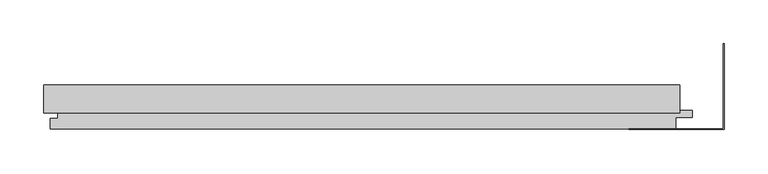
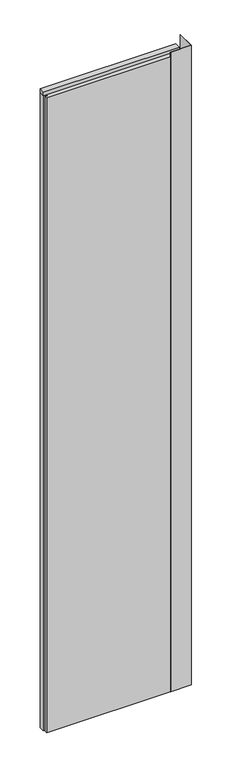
"""IFC4 building model written with IfcOpenShell, lengths in millimetres: plate geometry, Trimo_Qbiss Screen_Normal Panel-VERTICAL : HR - FB-F."""

import ifcopenshell
import ifcopenshell.guid

model = None  # the IFC model being written
_history = None  # IfcOwnerHistory: only IFC2X3 demands one
_inside = {}  # id of a spatial element -> (the spatial element, [elements in it])
_under = {}  # id of a project, library or spatial element -> (it, [spatial elements below it])
_declared = {}  # id of a project -> (the project, [libraries it declares])
_typed = {}  # id of a type object -> (the type object, [elements of that type])
_made_of = {}  # id of a material, layer set ... -> (it, [elements and type objects made of it])


def new_model(schema):
    """Start an empty IFC model of exactly this schema.

    Asked for "IFC4X3", IfcOpenShell would pick the latest addendum, in which some entities
    have other attributes; the version numbers below select the first issue.
    IFC2X3 requires an IfcOwnerHistory on every rooted entity: one is made here for all.
    """
    global model, _history
    if schema == "IFC4X3":
        model = ifcopenshell.file(schema_version=(4, 3, 0, 0))
    else:
        model = ifcopenshell.file(schema=schema)
    _inside.clear()
    _under.clear()
    _declared.clear()
    _typed.clear()
    _made_of.clear()
    _history = None
    if model.schema == "IFC2X3":
        org = make("IfcOrganization", Name="unknown")
        user = make(
            "IfcPersonAndOrganization",
            ThePerson=make("IfcPerson", FamilyName="unknown"),
            TheOrganization=org,
        )
        app = make(
            "IfcApplication",
            ApplicationDeveloper=org,
            Version="unknown",
            ApplicationFullName="unknown",
            ApplicationIdentifier="unknown",
        )
        _history = make(
            "IfcOwnerHistory",
            OwningUser=user,
            OwningApplication=app,
            ChangeAction="ADDED",
            CreationDate=0,
        )
    return model


def make(cls, **values):
    """One entity of the class cls with the attributes given. An attribute that is None is left unset."""
    return model.create_entity(
        cls, **{name: value for name, value in values.items() if value is not None}
    )


def rooted(cls, **values):
    """An entity with a GlobalId (a new one), such as an element, a storey or a relation."""
    return make(cls, GlobalId=ifcopenshell.guid.new(), OwnerHistory=_history, **values)


def si_unit(unit_type, name, prefix=None):
    """IfcSIUnit, for example si_unit("LENGTHUNIT", "METRE", prefix="MILLI")."""
    return make("IfcSIUnit", UnitType=unit_type, Prefix=prefix, Name=name)


def assignment(units):
    """IfcUnitAssignment: the units of a project."""
    return None if units is None else make("IfcUnitAssignment", Units=units)


def point(xyz):
    """IfcCartesianPoint."""
    return None if xyz is None else make("IfcCartesianPoint", Coordinates=xyz)


def direction(xyz):
    """IfcDirection."""
    return None if xyz is None else make("IfcDirection", DirectionRatios=xyz)


def frame(location, z_axis=None, x_axis=None):
    """IfcAxis2Placement3D, a coordinate frame: its origin and axes. An axis left out is left unset."""
    return make(
        "IfcAxis2Placement3D",
        Location=point(location),
        Axis=direction(z_axis),
        RefDirection=direction(x_axis),
    )


def origin():
    """The frame at (0, 0, 0) with its axes left unset."""
    return frame((0.0, 0.0, 0.0))


def place(relative_to, where):
    """IfcLocalPlacement: puts the frame where relative to a parent placement (None: the world)."""
    return make(
        "IfcLocalPlacement", PlacementRelTo=relative_to, RelativePlacement=where
    )


def context(
    kind, dimensions, precision=None, world=None, true_north=None, identifier=None
):
    """IfcGeometricRepresentationContext, for example the 3D "Model" context."""
    return make(
        "IfcGeometricRepresentationContext",
        ContextIdentifier=identifier,
        ContextType=kind,
        CoordinateSpaceDimension=dimensions,
        Precision=precision,
        WorldCoordinateSystem=world,
        TrueNorth=true_north,
    )


def project(units=None, contexts=None):
    """IfcProject with its units and contexts."""
    return rooted(
        "IfcProject",
        Name="project",
        RepresentationContexts=contexts,
        UnitsInContext=assignment(units),
    )


def spatial(cls, under=None, at=None, **own):
    """A site, building, storey or space (cls), placed at a placement, below another one or the project."""
    s = rooted(cls, ObjectPlacement=at, **own)
    if under is not None:
        _under.setdefault(under.id(), (under, []))[1].append(s)
    return s


def polyline(points):
    """IfcPolyline through the points."""
    return make("IfcPolyline", Points=[point(p) for p in points])


def outline(outer, holes=None, kind="AREA"):
    """IfcArbitraryClosedProfileDef: a profile drawn as a closed curve; with holes, ...WithVoids."""
    if holes is None:
        return make("IfcArbitraryClosedProfileDef", ProfileType=kind, OuterCurve=outer)
    return make(
        "IfcArbitraryProfileDefWithVoids",
        ProfileType=kind,
        OuterCurve=outer,
        InnerCurves=holes,
    )


def extrude(swept, where, along, depth):
    """IfcExtrudedAreaSolid: the profile swept, set in the frame where, extruded along a direction by depth."""
    return make(
        "IfcExtrudedAreaSolid",
        SweptArea=swept,
        Position=where,
        ExtrudedDirection=direction(along),
        Depth=depth,
    )


def shape(context_of_items, identifier, shape_type, items):
    """IfcShapeRepresentation: the items that make up one representation, for example the "Body"."""
    return make(
        "IfcShapeRepresentation",
        ContextOfItems=context_of_items,
        RepresentationIdentifier=identifier,
        RepresentationType=shape_type,
        Items=items,
    )


def source(mapping_origin, context_of_items, identifier, shape_type, items):
    """IfcRepresentationMap: a shape defined once, which mapped items show again and again."""
    return make(
        "IfcRepresentationMap",
        MappingOrigin=mapping_origin,
        MappedRepresentation=shape(context_of_items, identifier, shape_type, items),
    )


def transform(
    local_origin,
    x_axis=None,
    y_axis=None,
    z_axis=None,
    scale=None,
    scale2=None,
    scale3=None,
    uniform=True,
):
    """IfcCartesianTransformationOperator3D, or its non-uniform kind. x_axis, y_axis, z_axis: its Axis1, 2, 3."""
    if uniform:
        return make(
            "IfcCartesianTransformationOperator3D",
            Axis1=direction(x_axis),
            Axis2=direction(y_axis),
            LocalOrigin=point(local_origin),
            Scale=scale,
            Axis3=direction(z_axis),
        )
    return make(
        "IfcCartesianTransformationOperator3DnonUniform",
        Axis1=direction(x_axis),
        Axis2=direction(y_axis),
        LocalOrigin=point(local_origin),
        Scale=scale,
        Axis3=direction(z_axis),
        Scale2=scale2,
        Scale3=scale3,
    )


def mapped(mapping_source, mapping_target):
    """IfcMappedItem: shows the shape of a source again, moved by a transform."""
    return make(
        "IfcMappedItem", MappingSource=mapping_source, MappingTarget=mapping_target
    )


def made_of(thing, what):
    """Note that an element or type object is made of a material, layer set ...; save() writes the relation."""
    if what is not None:
        _made_of.setdefault(what.id(), (what, []))[1].append(thing)
    return thing


def element(
    cls,
    number,
    at=None,
    inside=None,
    cuts=None,
    type_object=None,
    material=None,
    context=None,
    identifier="Body",
    shape_type=None,
    held_by="IfcProductDefinitionShape",
    body=None,
    shapes=None,
    **own,
):
    """One element of the class cls, such as IfcWall. Its Tag is "e" and its number.

    at: its placement. inside: the storey or other place that contains it. cuts: it is an
    opening in that element (IfcRelVoidsElement). A single representation is given by context,
    identifier, shape_type and body (its items); several are given by shapes. held_by: the class
    of the entity that holds the representations. save() writes the other relations.
    """
    e = rooted(cls, Tag="e%d" % number, ObjectPlacement=at, **own)
    if body is not None:
        shapes = [shape(context, identifier, shape_type, body)]
    if shapes is not None:
        e.Representation = make(held_by, Representations=shapes)
    if inside is not None:
        _inside.setdefault(inside.id(), (inside, []))[1].append(e)
    if cuts is not None:
        rooted(
            "IfcRelVoidsElement", RelatingBuildingElement=cuts, RelatedOpeningElement=e
        )
    if type_object is not None:
        _typed.setdefault(type_object.id(), (type_object, []))[1].append(e)
    return made_of(e, material)


def aggregate(whole, parts):
    """IfcRelAggregates: a whole, such as a stair, and the parts it consists of."""
    return rooted("IfcRelAggregates", RelatingObject=whole, RelatedObjects=parts)


def save(model, path):
    """Write the relations noted so far, then the file.

    IfcRelAggregates (storeys below a building ...), IfcRelContainedInSpatialStructure (elements
    in a storey), IfcRelDefinesByType, IfcRelAssociatesMaterial and IfcRelDeclares: one each for
    every whole, place, type object, material and project.
    """
    for whole, parts in _under.values():
        aggregate(whole, parts)
    for where, things in _inside.values():
        rooted(
            "IfcRelContainedInSpatialStructure",
            RelatedElements=things,
            RelatingStructure=where,
        )
    for kind, things in _typed.values():
        rooted("IfcRelDefinesByType", RelatedObjects=things, RelatingType=kind)
    for what, things in _made_of.values():
        rooted("IfcRelAssociatesMaterial", RelatedObjects=things, RelatingMaterial=what)
    for by, libraries in _declared.values():
        rooted("IfcRelDeclares", RelatingContext=by, RelatedDefinitions=libraries)
    model.write(path)


def plate_de9d2cb9(model_context):
    return source(origin(), model_context, "Body", "SweptSolid", [
        extrude(outline(polyline([(349.0, 76.0), (349.0, 173.0), (349.8, 173.0), (349.8, 75.2), (241.0, 75.2), (241.0, 76.0), (349.0, 76.0)])), frame((0.0, 0.0, 12.5), z_axis=(0.0, 0.0, 1.0), x_axis=(1.0, 0.0, 0.0)), (0.0, 0.0, 1.0), 3600.0),
        extrude(outline(polyline([(-425.0, 93.9), (-425.0, 126.0), (299.0, 126.0), (299.0, 93.9), (-425.0, 93.9)])), frame((0.0, 0.0, 3590.5), z_axis=(0.0, 0.0, 1.0), x_axis=(1.0, 0.0, 0.0)), (0.0, 0.0, 1.0), 19.0),
        extrude(outline(polyline([(295.0, 97.0), (313.5, 97.0), (313.5, 89.0), (295.0, 89.0), (295.0, 76.0), (-418.0, 76.0), (-418.0, 88.0), (-409.5, 88.0), (-409.5, 98.0), (-425.0, 98.0), (-425.0, 126.0), (295.0, 126.0), (295.0, 97.0)])), frame((0.0, 0.0, 12.5), z_axis=(0.0, 0.0, 1.0), x_axis=(1.0, 0.0, 0.0)), (0.0, 0.0, 1.0), 3575.0),
    ])


if __name__ == "__main__":
    model = new_model("IFC4")
    model_context = context("Model", 3, world=origin())
    ifc_project = project(units=[si_unit("LENGTHUNIT", "METRE", prefix="MILLI")], contexts=[model_context])
    site = spatial("IfcSite", under=ifc_project)
    building = spatial("IfcBuilding", under=site)
    placement = place(None, origin())
    plate_shape = plate_de9d2cb9(model_context)
    element("IfcPlate", 1, ObjectType="Trimo_Qbiss Screen_Normal Panel-VERTICAL : HR - FB-F", at=placement, inside=building, context=model_context, shape_type="MappedRepresentation", body=[
        mapped(plate_shape, transform((0.0, 0.0, 0.0), x_axis=(1.0, 0.0, 0.0), y_axis=(0.0, 1.0, 0.0), z_axis=(0.0, 0.0, 1.0))),
    ])
    save(model, "model.ifc")
